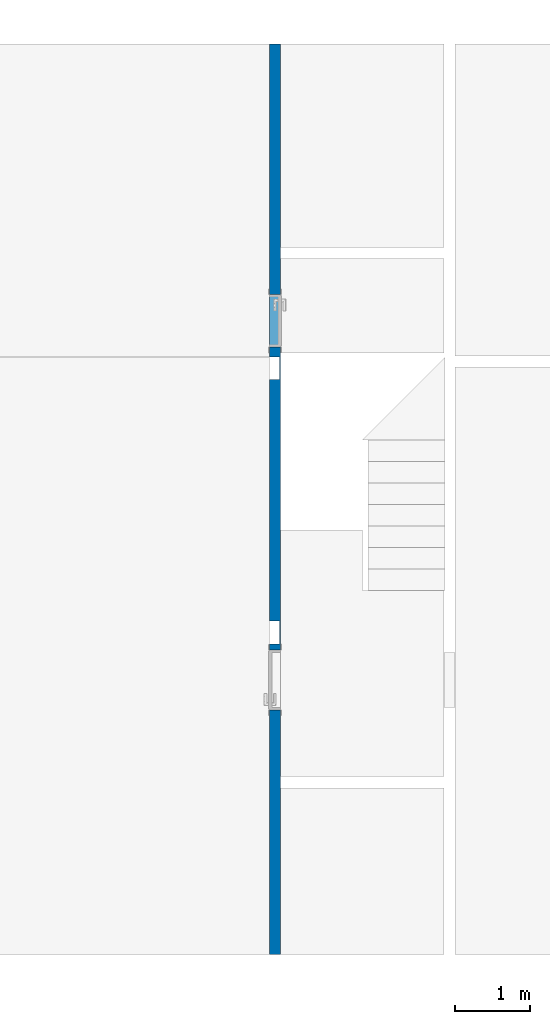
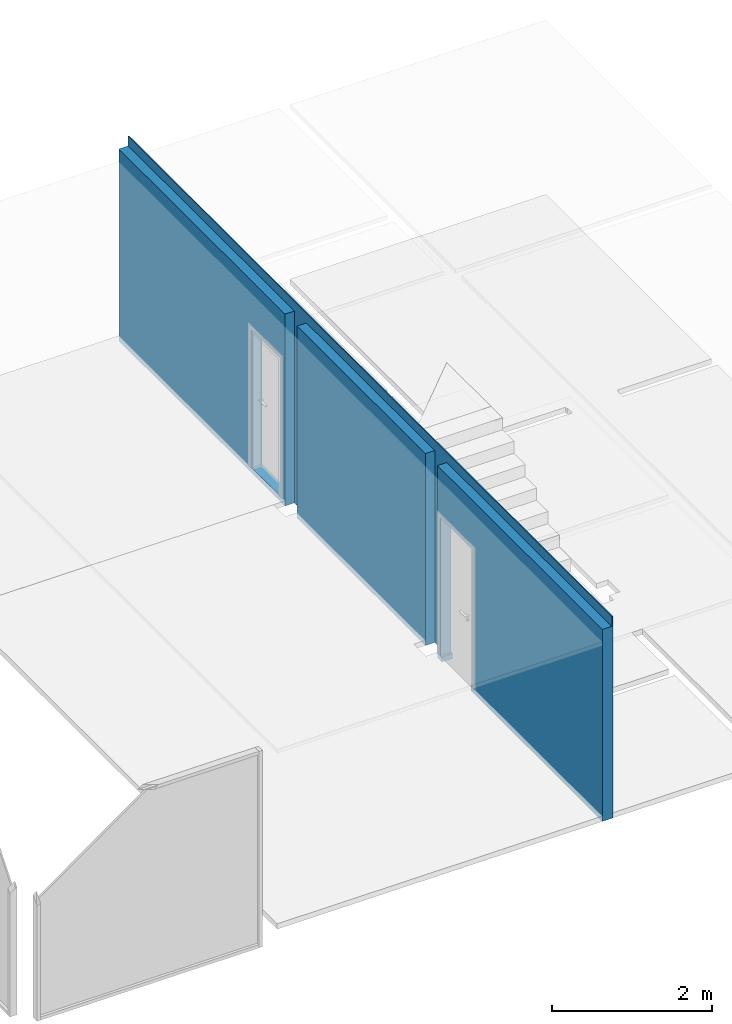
# One storey, part 3 of 4: 1 wall, 4 openings.
"""IFC2X3 building model written with IfcOpenShell, lengths in metres."""

from ifc_helpers import new_model, entity, si_unit, converted_unit, derived_unit, direction, frame, frame_2d, origin, place, context, subcontext, project, spatial, polyline, rectangle, extrude, clip, bounded_halfspace, material, layer, layer_set, layer_usage, type_object, element, save


model = new_model("IFC2X3")

# Units and contexts
model_context = context("Model", 3, precision=1e-05, world=origin(), true_north=direction((6.12303176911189e-17, 1.0)))
context_of_model = context(None, 3, precision=1e-05, world=origin(), true_north=direction((6.12303176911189e-17, 1.0)))
body_context = subcontext(model_context, "Body", "Model", "MODEL_VIEW")
ifc_project = project(units=[si_unit("LENGTHUNIT", "METRE"), si_unit("AREAUNIT", "SQUARE_METRE"), si_unit("VOLUMEUNIT", "CUBIC_METRE"), converted_unit("PLANEANGLEUNIT", "DEGREE", entity("IfcRatioMeasure", 0.0174532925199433), si_unit("PLANEANGLEUNIT", "RADIAN"), dimensions=[0, 0, 0, 0, 0, 0, 0]), si_unit("MASSUNIT", "GRAM", prefix="KILO"), si_unit("TIMEUNIT", "SECOND"), si_unit("FREQUENCYUNIT", "HERTZ"), si_unit("THERMODYNAMICTEMPERATUREUNIT", "DEGREE_CELSIUS"), derived_unit("THERMALTRANSMITTANCEUNIT", [(si_unit("MASSUNIT", "GRAM", prefix="KILO"), 1), (si_unit("THERMODYNAMICTEMPERATUREUNIT", "KELVIN"), -1), (si_unit("TIMEUNIT", "SECOND"), -3)]), derived_unit("VOLUMETRICFLOWRATEUNIT", [(si_unit("LENGTHUNIT", "METRE"), 3), (si_unit("TIMEUNIT", "SECOND"), -1)]), si_unit("ELECTRICCURRENTUNIT", "AMPERE"), si_unit("ELECTRICVOLTAGEUNIT", "VOLT"), si_unit("POWERUNIT", "WATT"), si_unit("FORCEUNIT", "NEWTON", prefix="KILO"), si_unit("ILLUMINANCEUNIT", "LUX"), si_unit("LUMINOUSFLUXUNIT", "LUMEN"), si_unit("LUMINOUSINTENSITYUNIT", "CANDELA"), si_unit("PRESSUREUNIT", "PASCAL")], contexts=[model_context, context_of_model])

# Site, building, storey
site_placement = place(None, origin())
site = spatial("IfcSite", under=ifc_project, at=site_placement, Name="Default", CompositionType="ELEMENT")
building_placement = place(site_placement, origin())
building = spatial("IfcBuilding", under=site, at=building_placement, CompositionType="ELEMENT")
storey_placement = place(building_placement, frame((0.0, 0.0, 0.2)))
storey = spatial("IfcBuildingStorey", under=building, at=storey_placement, Name="01.AR.PLANTA BAJA ACAB.SUELO", CompositionType="ELEMENT", Elevation=0.2)

# Wall, openings
ifc_material = material(Name="Muro por defecto")
ifc_layer = layer(ifc_material, 0.15)
ifc_layer_set = layer_set([ifc_layer], Name="Muro básico:Por defecto - 15 cm")
ifc_layer_usage = layer_usage(ifc_layer_set, "AXIS2", "POSITIVE", -0.075)
wall_type = type_object("IfcWallType", Name="Muro básico:Por defecto - 15 cm", PredefinedType="STANDARD", material=ifc_layer_set)
wall_placement = place(storey_placement, frame((9.15499999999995, 12.9065177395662, -0.0800000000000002), z_axis=(0.0, 0.0, 1.0), x_axis=(0.0, -1.0, 0.0)))
wall = element("IfcWallStandardCase", 1, at=wall_placement, inside=storey, type_object=wall_type, material=ifc_layer_usage, Name="Muro básico:Por defecto - 15 cm", ObjectType="Muro básico:Por defecto - 15 cm", context=body_context, shape_type="Clipping", body=[
    clip(clip(clip(clip(extrude(rectangle(XDim=12.0915177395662, YDim=0.150000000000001, at=frame_2d((6.04575886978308, 2.08166817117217e-17), x_axis=(-1.0, 0.0))), origin(), (0.0, 0.0, 1.0), 3.08), bounded_halfspace(frame((4.15651773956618, 0.060000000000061, 0.0), z_axis=(0.0, 1.0, 0.0), x_axis=(0.0, 0.0, -1.0)), True, frame((4.15651773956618, 0.060000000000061, 0.0), z_axis=(0.0, 1.0, 0.0), x_axis=(0.0, 0.0, -1.0)), polyline([(0.0, 0.0), (-2.93, 0.0), (-2.93, 4.15651773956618), (-3.08, 4.15651773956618), (-3.08, -7.93499999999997), (-2.93, -7.93499999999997), (-2.93, -3.80993891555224), (0.0, -3.80993891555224), (0.0, -3.50993891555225), (-2.93, -3.50993891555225), (-2.93, -0.299999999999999), (0.0, -0.299999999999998), (0.0, 0.0)]))), bounded_halfspace(frame((7.96645665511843, -0.0749999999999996, 2.93), z_axis=(0.0, 0.0, -1.0), x_axis=(1.0, 0.0, 0.0)), True, frame((7.96645665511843, -0.0749999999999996, 2.93), z_axis=(0.0, 0.0, -1.0), x_axis=(1.0, 0.0, 0.0)), polyline([(0.0, 0.0), (0.0, -0.135000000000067), (4.12506108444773, -0.13500000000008), (4.12506108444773, 0.0), (0.0, 0.0)]))), bounded_halfspace(frame((7.66645665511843, 0.0600000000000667, 2.93), z_axis=(0.0, 0.0, -1.0), x_axis=(1.0, 0.0, 0.0)), True, frame((7.66645665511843, 0.0600000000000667, 2.93), z_axis=(0.0, 0.0, -1.0), x_axis=(1.0, 0.0, 0.0)), polyline([(0.0, 0.0), (0.0, 0.135000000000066), (-3.20993891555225, 0.135000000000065), (-3.20993891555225, 0.0), (0.0, 0.0)]))), bounded_halfspace(frame((0.0, -0.0749999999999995, 2.93), z_axis=(0.0, 0.0, -1.0), x_axis=(1.0, 0.0, 0.0)), True, frame((0.0, -0.0749999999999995, 2.93), z_axis=(0.0, 0.0, -1.0), x_axis=(1.0, 0.0, 0.0)), polyline([(0.0, 0.0), (0.0, -0.135000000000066), (4.15651773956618, -0.13500000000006), (4.15651773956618, 0.0), (0.0, 0.0)]))),
])
opening_1_placement = place(storey_placement, frame((9.15499999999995, 12.9065177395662, -0.0800000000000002), z_axis=(0.0, 0.0, 1.0), x_axis=(0.0, -1.0, 0.0)))
element("IfcOpeningElement", 2, at=opening_1_placement, cuts=wall, Name="Muro básico:Por defecto - 15 cm:1", ObjectType="Opening", context=body_context, shape_type="SweptSolid", body=[
    extrude(rectangle(XDim=0.0799999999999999, YDim=0.149999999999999, at=frame_2d((0.0, -5.41233724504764e-16), x_axis=(1.0, 0.0))), frame((8.81151773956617, 0.0, 0.0400000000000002), z_axis=(-1.0, 0.0, 0.0), x_axis=(0.0, 0.0, 1.0)), (0.0, 0.0, 1.0), 0.73),
])
opening_2_placement = place(storey_placement, frame((9.15499999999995, 12.9065177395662, -0.0800000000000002), z_axis=(0.0, 0.0, 1.0), x_axis=(0.0, -1.0, 0.0)))
element("IfcOpeningElement", 3, at=opening_2_placement, cuts=wall, Name="Muro básico:Por defecto - 15 cm:2", ObjectType="Opening", context=body_context, shape_type="SweptSolid", body=[
    extrude(rectangle(XDim=2.93, YDim=0.135000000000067, at=frame_2d((-0.0135000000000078, 0.277), x_axis=(0.0, 1.0))), frame((7.96645665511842, -0.020999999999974, 1.188), z_axis=(-1.0, 0.0, 0.0), x_axis=(0.0, -1.0, 0.0)), (0.0, 0.0, 1.0), 0.299999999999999),
])
opening_3_placement = place(wall_placement, frame((8.84651773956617, 0.0749999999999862, 0.0800000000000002)))
element("IfcOpeningElement", 4, at=opening_3_placement, cuts=wall, Name="Puerta de 1 hoja:80 x 210 cm:1", ObjectType="Opening", context=body_context, shape_type="SweptSolid", body=[
    extrude(rectangle(XDim=2.09999999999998, YDim=0.8, at=frame_2d((1.04999999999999, 0.4), x_axis=(1.0, 0.0))), frame((0.0, 0.0, 0.0), z_axis=(0.0, -1.0, 0.0), x_axis=(0.0, 0.0, 1.0)), (0.0, 0.0, 1.0), 0.15),
])
opening_4_placement = place(wall_placement, frame((3.32651773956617, -0.0750000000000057, 0.0800000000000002)))
element("IfcOpeningElement", 5, at=opening_4_placement, cuts=wall, Name="Puerta de 1 hoja:70 x 210 cm:1", ObjectType="Opening", context=body_context, shape_type="SweptSolid", body=[
    extrude(rectangle(XDim=2.09999999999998, YDim=0.7, at=frame_2d((1.04999999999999, 0.35), x_axis=(1.0, 0.0))), frame((0.0, 0.0, 0.0), z_axis=(0.0, 1.0, 0.0), x_axis=(0.0, 0.0, 1.0)), (0.0, 0.0, 1.0), 0.15),
])

save(model, "model.ifc")
